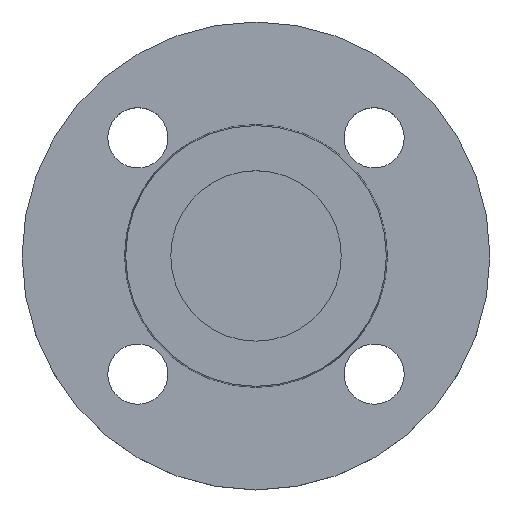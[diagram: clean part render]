
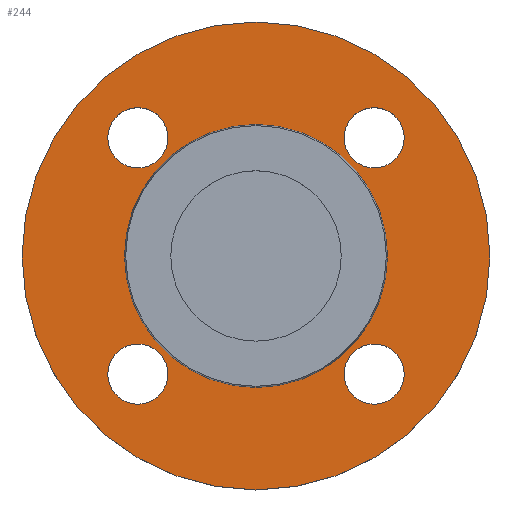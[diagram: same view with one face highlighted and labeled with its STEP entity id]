
A CAD part, top view. The second image highlights one B-rep face of the part: STEP entity #244.
In plain terms, the highlighted planar face has unit normal (0, 0, 1).
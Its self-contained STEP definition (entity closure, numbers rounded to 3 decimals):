
#3 = ORIENTED_EDGE ( 'NONE', *, *, #217, .T. ) ;
#7 = CARTESIAN_POINT ( 'NONE',  ( 0., 0., -2. ) ) ;
#11 = ORIENTED_EDGE ( 'NONE', *, *, #555, .T. ) ;
#22 = ORIENTED_EDGE ( 'NONE', *, *, #52, .T. ) ;
#28 = CARTESIAN_POINT ( 'NONE',  ( -44.355, 35.355, -2. ) ) ;
#30 = AXIS2_PLACEMENT_3D ( 'NONE', #437, #670, #160 ) ;
#35 = CIRCLE ( 'NONE', #439, 9. ) ;
#39 = DIRECTION ( 'NONE',  ( 1., 0., 0. ) ) ;
#52 = EDGE_CURVE ( 'NONE', #449, #666, #605, .T. ) ;
#58 = ORIENTED_EDGE ( 'NONE', *, *, #617, .T. ) ;
#60 = ORIENTED_EDGE ( 'NONE', *, *, #313, .T. ) ;
#68 = DIRECTION ( 'NONE',  ( 0., 0., -1. ) ) ;
#81 = CARTESIAN_POINT ( 'NONE',  ( 39.353, 0., -2. ) ) ;
#84 = CIRCLE ( 'NONE', #489, 39.353 ) ;
#88 = VERTEX_POINT ( 'NONE', #389 ) ;
#97 = CARTESIAN_POINT ( 'NONE',  ( 0., 0., -2. ) ) ;
#98 = VERTEX_POINT ( 'NONE', #624 ) ;
#103 = CIRCLE ( 'NONE', #653, 9. ) ;
#110 = CIRCLE ( 'NONE', #205, 9. ) ;
#117 = DIRECTION ( 'NONE',  ( 0., 0., -1. ) ) ;
#134 = FACE_BOUND ( 'NONE', #172, .T. ) ;
#142 = ORIENTED_EDGE ( 'NONE', *, *, #292, .T. ) ;
#143 = CARTESIAN_POINT ( 'NONE',  ( -26.355, -35.355, -2. ) ) ;
#155 = AXIS2_PLACEMENT_3D ( 'NONE', #97, #316, #547 ) ;
#160 = DIRECTION ( 'NONE',  ( 1., 0., 0. ) ) ;
#164 = DIRECTION ( 'NONE',  ( 0., 0., -1. ) ) ;
#165 = DIRECTION ( 'NONE',  ( 1., 0., 0. ) ) ;
#172 = EDGE_LOOP ( 'NONE', ( #595, #58 ) ) ;
#177 = EDGE_LOOP ( 'NONE', ( #3, #11 ) ) ;
#185 = DIRECTION ( 'NONE',  ( 0., 0., -1. ) ) ;
#189 = FACE_BOUND ( 'NONE', #581, .T. ) ;
#194 = DIRECTION ( 'NONE',  ( 0., 0., -1. ) ) ;
#196 = CIRCLE ( 'NONE', #612, 70. ) ;
#199 = CARTESIAN_POINT ( 'NONE',  ( 0., 0., -2. ) ) ;
#205 = AXIS2_PLACEMENT_3D ( 'NONE', #498, #725, #215 ) ;
#215 = DIRECTION ( 'NONE',  ( 1., 0., 0. ) ) ;
#217 = EDGE_CURVE ( 'NONE', #314, #461, #103, .T. ) ;
#222 = DIRECTION ( 'NONE',  ( 0., 0., -1. ) ) ;
#224 = VERTEX_POINT ( 'NONE', #643 ) ;
#227 = ORIENTED_EDGE ( 'NONE', *, *, #347, .T. ) ;
#244 = ADVANCED_FACE ( 'NONE', ( #698, #189, #413, #649, #134, #356 ), #589, .T. ) ;
#249 = EDGE_LOOP ( 'NONE', ( #516, #142 ) ) ;
#256 = EDGE_LOOP ( 'NONE', ( #568, #588 ) ) ;
#261 = EDGE_CURVE ( 'NONE', #88, #714, #699, .T. ) ;
#285 = DIRECTION ( 'NONE',  ( 1., 0., 0. ) ) ;
#287 = CIRCLE ( 'NONE', #706, 70. ) ;
#292 = EDGE_CURVE ( 'NONE', #714, #88, #331, .T. ) ;
#293 = VERTEX_POINT ( 'NONE', #380 ) ;
#298 = DIRECTION ( 'NONE',  ( 0., 0., 1. ) ) ;
#299 = AXIS2_PLACEMENT_3D ( 'NONE', #673, #164, #383 ) ;
#308 = CARTESIAN_POINT ( 'NONE',  ( 35.355, -35.355, -2. ) ) ;
#310 = AXIS2_PLACEMENT_3D ( 'NONE', #308, #542, #39 ) ;
#313 = EDGE_CURVE ( 'NONE', #224, #336, #110, .T. ) ;
#314 = VERTEX_POINT ( 'NONE', #440 ) ;
#316 = DIRECTION ( 'NONE',  ( 0., 0., -1. ) ) ;
#317 = EDGE_CURVE ( 'NONE', #336, #224, #626, .T. ) ;
#322 = AXIS2_PLACEMENT_3D ( 'NONE', #81, #298, #531 ) ;
#331 = CIRCLE ( 'NONE', #30, 9. ) ;
#335 = EDGE_CURVE ( 'NONE', #293, #598, #84, .T. ) ;
#336 = VERTEX_POINT ( 'NONE', #143 ) ;
#344 = CARTESIAN_POINT ( 'NONE',  ( 44.355, -35.355, -2. ) ) ;
#347 = EDGE_CURVE ( 'NONE', #666, #449, #645, .T. ) ;
#356 = FACE_OUTER_BOUND ( 'NONE', #256, .T. ) ;
#365 = AXIS2_PLACEMENT_3D ( 'NONE', #703, #194, #416 ) ;
#380 = CARTESIAN_POINT ( 'NONE',  ( -39.353, 0., -2. ) ) ;
#383 = DIRECTION ( 'NONE',  ( 1., 0., 0. ) ) ;
#389 = CARTESIAN_POINT ( 'NONE',  ( -26.355, 35.355, -2. ) ) ;
#408 = DIRECTION ( 'NONE',  ( 1., 0., 0. ) ) ;
#413 = FACE_BOUND ( 'NONE', #249, .T. ) ;
#416 = DIRECTION ( 'NONE',  ( 1., 0., 0. ) ) ;
#422 = DIRECTION ( 'NONE',  ( 0., 0., -1. ) ) ;
#426 = CARTESIAN_POINT ( 'NONE',  ( 39.353, 0., -2. ) ) ;
#434 = CARTESIAN_POINT ( 'NONE',  ( 26.355, 35.355, -2. ) ) ;
#437 = CARTESIAN_POINT ( 'NONE',  ( -35.355, 35.355, -2. ) ) ;
#439 = AXIS2_PLACEMENT_3D ( 'NONE', #681, #68, #285 ) ;
#440 = CARTESIAN_POINT ( 'NONE',  ( 44.355, 35.355, -2. ) ) ;
#442 = CARTESIAN_POINT ( 'NONE',  ( 35.355, -35.355, -2. ) ) ;
#446 = DIRECTION ( 'NONE',  ( -1., 0., 0. ) ) ;
#449 = VERTEX_POINT ( 'NONE', #550 ) ;
#451 = EDGE_LOOP ( 'NONE', ( #227, #22 ) ) ;
#461 = VERTEX_POINT ( 'NONE', #434 ) ;
#473 = CIRCLE ( 'NONE', #155, 39.353 ) ;
#489 = AXIS2_PLACEMENT_3D ( 'NONE', #199, #422, #656 ) ;
#498 = CARTESIAN_POINT ( 'NONE',  ( -35.355, -35.355, -2. ) ) ;
#504 = AXIS2_PLACEMENT_3D ( 'NONE', #442, #674, #165 ) ;
#508 = DIRECTION ( 'NONE',  ( -1., 0., 0. ) ) ;
#516 = ORIENTED_EDGE ( 'NONE', *, *, #261, .T. ) ;
#530 = EDGE_CURVE ( 'NONE', #98, #578, #196, .T. ) ;
#531 = DIRECTION ( 'NONE',  ( 1., 0., 0. ) ) ;
#532 = EDGE_CURVE ( 'NONE', #578, #98, #287, .T. ) ;
#542 = DIRECTION ( 'NONE',  ( 0., 0., -1. ) ) ;
#547 = DIRECTION ( 'NONE',  ( -1., 0., 0. ) ) ;
#550 = CARTESIAN_POINT ( 'NONE',  ( 26.355, -35.355, -2. ) ) ;
#555 = EDGE_CURVE ( 'NONE', #461, #314, #35, .T. ) ;
#568 = ORIENTED_EDGE ( 'NONE', *, *, #530, .F. ) ;
#578 = VERTEX_POINT ( 'NONE', #601 ) ;
#581 = EDGE_LOOP ( 'NONE', ( #603, #60 ) ) ;
#588 = ORIENTED_EDGE ( 'NONE', *, *, #532, .F. ) ;
#589 = PLANE ( 'NONE',  #322 ) ;
#595 = ORIENTED_EDGE ( 'NONE', *, *, #335, .T. ) ;
#598 = VERTEX_POINT ( 'NONE', #426 ) ;
#601 = CARTESIAN_POINT ( 'NONE',  ( -70., 0., -2. ) ) ;
#603 = ORIENTED_EDGE ( 'NONE', *, *, #317, .T. ) ;
#605 = CIRCLE ( 'NONE', #504, 9. ) ;
#612 = AXIS2_PLACEMENT_3D ( 'NONE', #629, #117, #508 ) ;
#617 = EDGE_CURVE ( 'NONE', #598, #293, #473, .T. ) ;
#624 = CARTESIAN_POINT ( 'NONE',  ( 70., 0., -2. ) ) ;
#626 = CIRCLE ( 'NONE', #299, 9. ) ;
#629 = CARTESIAN_POINT ( 'NONE',  ( 0., 0., -2. ) ) ;
#643 = CARTESIAN_POINT ( 'NONE',  ( -44.355, -35.355, -2. ) ) ;
#645 = CIRCLE ( 'NONE', #310, 9. ) ;
#649 = FACE_BOUND ( 'NONE', #177, .T. ) ;
#653 = AXIS2_PLACEMENT_3D ( 'NONE', #694, #185, #408 ) ;
#656 = DIRECTION ( 'NONE',  ( -1., 0., 0. ) ) ;
#666 = VERTEX_POINT ( 'NONE', #344 ) ;
#670 = DIRECTION ( 'NONE',  ( 0., 0., -1. ) ) ;
#673 = CARTESIAN_POINT ( 'NONE',  ( -35.355, -35.355, -2. ) ) ;
#674 = DIRECTION ( 'NONE',  ( 0., 0., -1. ) ) ;
#681 = CARTESIAN_POINT ( 'NONE',  ( 35.355, 35.355, -2. ) ) ;
#694 = CARTESIAN_POINT ( 'NONE',  ( 35.355, 35.355, -2. ) ) ;
#698 = FACE_BOUND ( 'NONE', #451, .T. ) ;
#699 = CIRCLE ( 'NONE', #365, 9. ) ;
#703 = CARTESIAN_POINT ( 'NONE',  ( -35.355, 35.355, -2. ) ) ;
#706 = AXIS2_PLACEMENT_3D ( 'NONE', #7, #222, #446 ) ;
#714 = VERTEX_POINT ( 'NONE', #28 ) ;
#725 = DIRECTION ( 'NONE',  ( 0., 0., -1. ) ) ;
